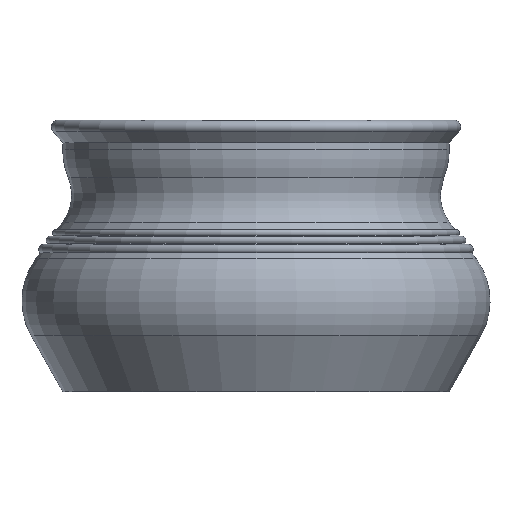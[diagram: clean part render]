
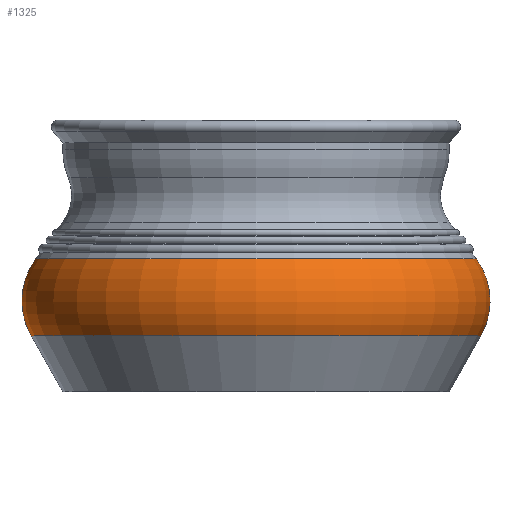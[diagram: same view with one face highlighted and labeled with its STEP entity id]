
A CAD part, front view. The second image highlights one B-rep face of the part: STEP entity #1325.
In plain terms, the highlighted toroidal (fillet/blend) face has major radius 120.001 mm and minor radius 52.359 mm.
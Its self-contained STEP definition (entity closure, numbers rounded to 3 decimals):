
#22=TOROIDAL_SURFACE('',#1505,120.001,52.359);
#166=FACE_OUTER_BOUND('',#284,.T.);
#284=EDGE_LOOP('',(#1208,#1209,#1210,#1211));
#526=CIRCLE('',#1467,165.623);
#549=CIRCLE('',#1506,162.196);
#550=CIRCLE('',#1507,52.359);
#653=VERTEX_POINT('',#2240);
#669=VERTEX_POINT('',#2303);
#818=EDGE_CURVE('',#653,#653,#526,.T.);
#849=EDGE_CURVE('',#669,#669,#549,.T.);
#850=EDGE_CURVE('',#669,#653,#550,.T.);
#1208=ORIENTED_EDGE('',*,*,#849,.F.);
#1209=ORIENTED_EDGE('',*,*,#850,.T.);
#1210=ORIENTED_EDGE('',*,*,#818,.T.);
#1211=ORIENTED_EDGE('',*,*,#850,.F.);
#1325=ADVANCED_FACE('',(#166),#22,.T.);
#1467=AXIS2_PLACEMENT_3D('',#2241,#1837,#1838);
#1505=AXIS2_PLACEMENT_3D('',#2302,#1921,#1922);
#1506=AXIS2_PLACEMENT_3D('',#2304,#1923,#1924);
#1507=AXIS2_PLACEMENT_3D('',#2305,#1925,#1926);
#1837=DIRECTION('center_axis',(0.,0.,1.));
#1838=DIRECTION('ref_axis',(1.,0.,0.));
#1921=DIRECTION('center_axis',(0.,0.,1.));
#1922=DIRECTION('ref_axis',(1.,0.,0.));
#1923=DIRECTION('center_axis',(0.,0.,1.));
#1924=DIRECTION('ref_axis',(1.,0.,0.));
#1925=DIRECTION('center_axis',(0.,-1.,0.));
#1926=DIRECTION('ref_axis',(-1.,0.,0.));
#2240=CARTESIAN_POINT('',(-165.623,0.,41.308));
#2241=CARTESIAN_POINT('Origin',(0.,0.,41.308));
#2302=CARTESIAN_POINT('Origin',(0.,0.,67.));
#2303=CARTESIAN_POINT('',(-162.196,0.,98.));
#2304=CARTESIAN_POINT('Origin',(0.,0.,98.));
#2305=CARTESIAN_POINT('Origin',(-120.001,0.,
67.));
